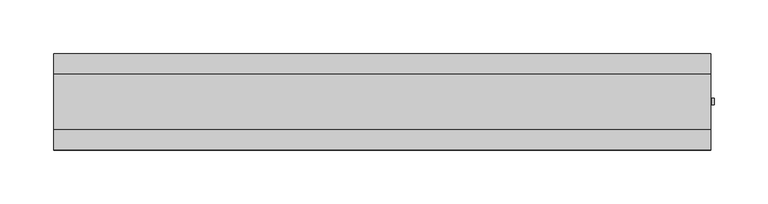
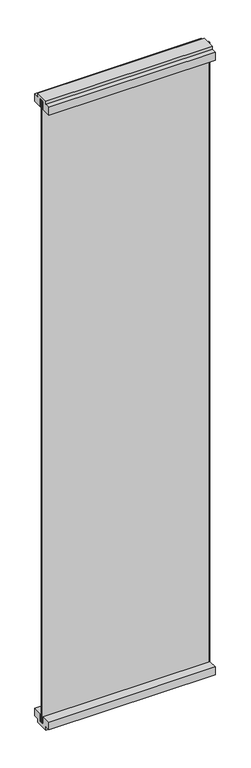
"""IFC4 building model written with IfcOpenShell, lengths in millimetres: furniture geometry, Allsteel - Aspect - Panel - 1-Way RH (11-25-24) : Allsteel - Aspect - Panel - 1-Way RH (11-25-24)."""

from ifc_helpers import new_model, si_unit, frame, origin, place, context, project, spatial, polyline, outline, extrude, source, transform, mapped, element, save


def furniture_96e49851(model_context):
    return source(origin(), model_context, "Body", "SweptSolid", [
        extrude(outline(polyline([(609.6, -3.175), (0.0, -3.175), (0.0, 3.175), (609.6, 3.175), (609.6, -3.175)])), frame((0.0, 0.0, 12.7), z_axis=(0.0, 0.0, 1.0), x_axis=(1.0, 0.0, 0.0)), (0.0, 0.0, 1.0), 2413.0),
        extrude(outline(polyline([(-25.4, 2438.4), (25.4, 2438.4), (25.4, 2425.7), (44.45, 2425.7), (44.45, 2395.5375), (9.525, 2395.5375), (9.525, 2425.7), (-9.525, 2425.7), (-9.525, 2395.5375), (-44.45, 2395.5375), (-44.45, 2425.7), (-25.4, 2425.7), (-25.4, 2438.4)])), frame((0.0, 0.0, 0.0), z_axis=(1.0, 0.0, 0.0), x_axis=(0.0, 1.0, 0.0)), (0.0, 0.0, 1.0), 609.6),
        extrude(outline(polyline([(25.4, 0.0), (-25.4, 0.0), (-25.4, 12.7), (-44.45, 12.7), (-44.45, 42.8625), (-9.525, 42.8625), (-9.525, 12.7), (9.525, 12.7), (9.525, 42.8625), (44.45, 42.8625), (44.45, 12.7), (25.4, 12.7), (25.4, 0.0)])), frame((0.0, 0.0, 0.0), z_axis=(1.0, 0.0, 0.0), x_axis=(0.0, 1.0, 0.0)), (0.0, 0.0, 1.0), 609.6),
        extrude(outline(polyline([(612.947032, 3.4280263), (612.947032, -2.9834161), (610.915032, -2.9834161), (610.915032, 3.4280263), (612.947032, 3.4280263)])), frame((0.0, 0.0, 22.225), z_axis=(0.0, 0.0, 1.0), x_axis=(1.0, 0.0, 0.0)), (0.0, 0.0, 1.0), 2416.175),
    ])


if __name__ == "__main__":
    model = new_model("IFC4")
    model_context = context("Model", 3, world=origin())
    ifc_project = project(units=[si_unit("LENGTHUNIT", "METRE", prefix="MILLI")], contexts=[model_context])
    site = spatial("IfcSite", under=ifc_project)
    building = spatial("IfcBuilding", under=site)
    placement = place(None, origin())
    furniture_shape = furniture_96e49851(model_context)
    element("IfcFurniture", 1, ObjectType="Allsteel - Aspect - Panel - 1-Way RH (11-25-24) : Allsteel - Aspect - Panel - 1-Way RH (11-25-24)", at=placement, inside=building, context=model_context, shape_type="MappedRepresentation", body=[
        mapped(furniture_shape, transform((0.0, 0.0, 0.0), x_axis=(1.0, 0.0, 0.0), y_axis=(0.0, 1.0, 0.0), z_axis=(0.0, 0.0, 1.0))),
    ])
    save(model, "model.ifc")
